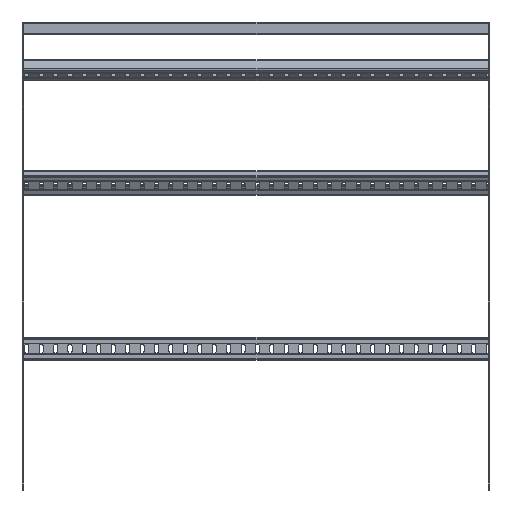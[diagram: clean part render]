
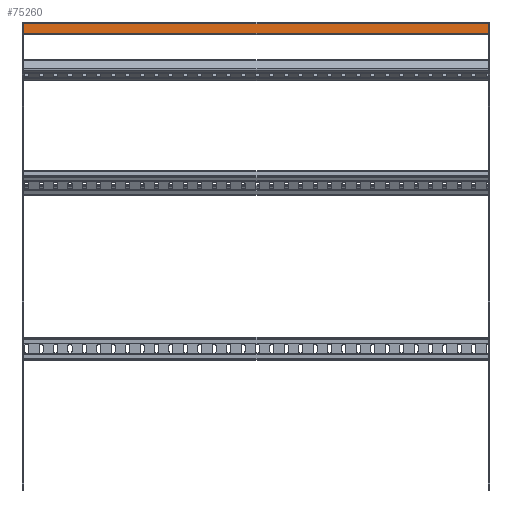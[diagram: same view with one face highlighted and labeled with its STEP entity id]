
A CAD part, top view. The second image highlights one B-rep face of the part: STEP entity #75260.
In plain terms, the highlighted planar face has unit normal (0, 0, 1) as drawn and (1, 0, 0) by its records, which use the part's own axes.
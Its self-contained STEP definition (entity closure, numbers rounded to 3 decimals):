
#41990=CARTESIAN_POINT('',(38.306,-1.267,-75.));
#42000=VERTEX_POINT('',#41990);
#42030=CARTESIAN_POINT('',(38.306,-4.267,-75.));
#42040=DIRECTION('',(0.,1.,0.));
#42050=VECTOR('',#42040,1.);
#42060=LINE('',#42030,#42050);
#42070=CARTESIAN_POINT('',(38.306,14.733,-75.));
#42080=VERTEX_POINT('',#42070);
#42090=EDGE_CURVE('',#42000,#42080,#42060,.T.);
#44840=CARTESIAN_POINT('',(38.306,-1.267,730.));
#44850=VERTEX_POINT('',#44840);
#44880=CARTESIAN_POINT('',(38.306,-1.267,-100.));
#44890=DIRECTION('',(0.,0.,-1.));
#44900=VECTOR('',#44890,1.);
#44910=LINE('',#44880,#44900);
#44920=EDGE_CURVE('',#44850,#42000,#44910,.T.);
#74950=CARTESIAN_POINT('',(38.306,14.733,730.));
#74960=VERTEX_POINT('',#74950);
#75010=CARTESIAN_POINT('',(38.306,14.733,-100.));
#75020=DIRECTION('',(0.,0.,1.));
#75030=VECTOR('',#75020,1.);
#75040=LINE('',#75010,#75030);
#75050=EDGE_CURVE('',#42080,#74960,#75040,.T.);
#75100=CARTESIAN_POINT('',(38.306,17.733,-100.));
#75110=DIRECTION('',(1.,0.,0.));
#75120=DIRECTION('',(0.,-1.,0.));
#75130=AXIS2_PLACEMENT_3D('',#75100,#75110,#75120);
#75140=PLANE('',#75130);
#75150=CARTESIAN_POINT('',(38.306,0.,730.));
#75160=DIRECTION('',(0.,1.,0.));
#75170=VECTOR('',#75160,1.);
#75180=LINE('',#75150,#75170);
#75190=EDGE_CURVE('',#44850,#74960,#75180,.T.);
#75200=ORIENTED_EDGE('',*,*,#75190,.F.);
#75210=ORIENTED_EDGE('',*,*,#75050,.T.);
#75220=ORIENTED_EDGE('',*,*,#42090,.T.);
#75230=ORIENTED_EDGE('',*,*,#44920,.T.);
#75240=EDGE_LOOP('',(#75230,#75220,#75210,#75200));
#75250=FACE_OUTER_BOUND('',#75240,.T.);
#75260=ADVANCED_FACE('',(#75250),#75140,.T.);
